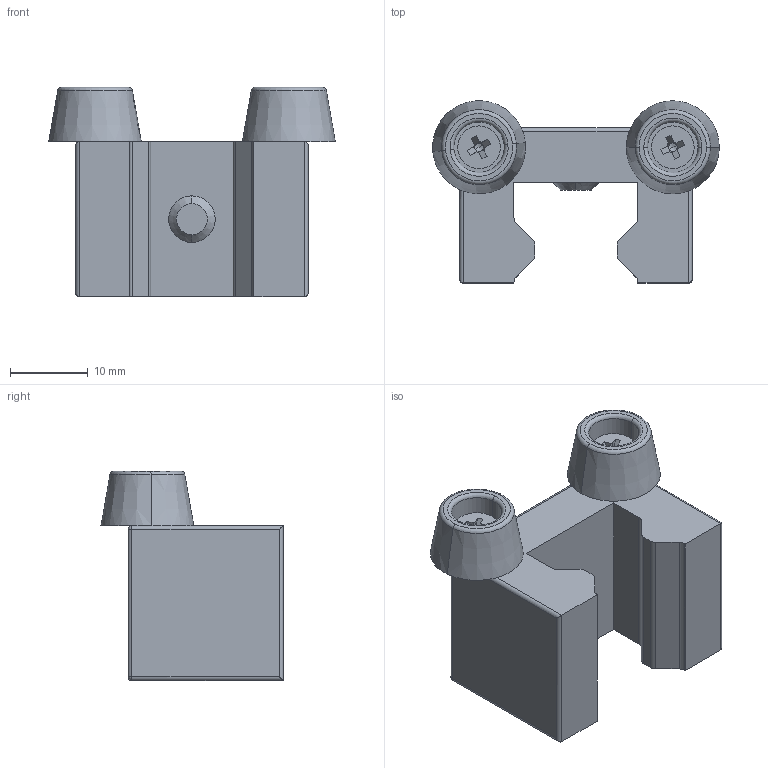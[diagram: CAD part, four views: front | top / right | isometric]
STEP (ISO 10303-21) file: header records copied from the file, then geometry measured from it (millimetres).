
FILE_DESCRIPTION (( 'STEP AP214' ), '1' );
FILE_NAME ('2.9026 Pys銛tinp鳵ty HG15.STEP', '2024-11-12T13:20:27', ( '' ), ( '' ), 'SwSTEP 2.0', 'SolidWorks 2024', '' );
FILE_SCHEMA (( 'AUTOMOTIVE_DESIGN' ));
Length unit declared in the file: millimetre
Products named in the file (6): socket set screw flat point_iso_ISO 4026 - M6 x 8-N; countersunk flat head cross recess screw_iso_ISO 7046-1 - M3 x 10 - Z - 10N; 2.9026 Pysäytinpääty HG15; Pysäytin; Kumipysäytin
Assembly tree (6 placements, depth 3):
  2.9026 Pysäytinpääty HG15
    2.9026 Pysäytinpääty HG15
    Pysäytin  x2
      Kumipysäytin
      countersunk flat head cross recess screw_iso_ISO 7046-1 - M3 x 10 - Z - 10N
    socket set screw flat point_iso_ISO 4026 - M6 x 8-N
Bounding box: 36.98 x 23.5 x 27 mm (x, y, z)
Volume: 9378.2 mm3; surface area: 5169.8 mm2
Topology: 6 solids, 6 shells, 222 faces, 535 edges, 324 vertices
Faces by surface type: plane 109, cylinder 42, cone 38, bspline 17, torus 12, sphere 4
Entity records: 6726 total; most frequent: CARTESIAN_POINT 2097, ORIENTED_EDGE 810, DIRECTION 778, EDGE_CURVE 405, AXIS2_PLACEMENT_3D 263, VERTEX_POINT 254, VECTOR 252, LINE 252
